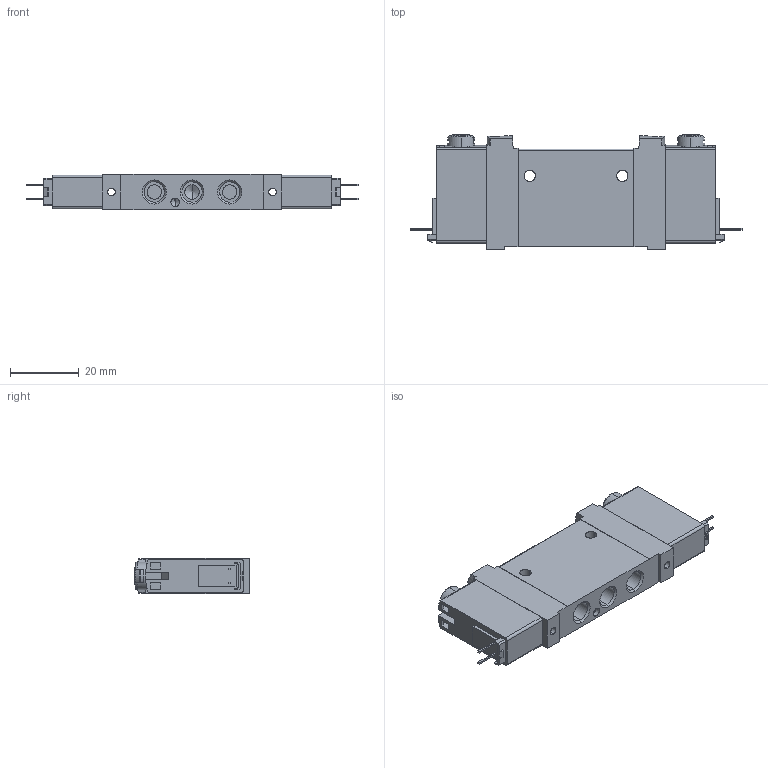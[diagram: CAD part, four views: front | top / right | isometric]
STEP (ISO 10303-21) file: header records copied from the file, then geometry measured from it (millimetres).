
FILE_DESCRIPTION (( 'STEP AP214' ), '1' );
FILE_NAME ('564212 VUVG-LK10-B52---T-M7--1H2--L-----(G).step', '2025-12-23T15:58:28', ( '' ), ( '' ), 'SwSTEP 2.0', 'SolidWorks 2026', '' );
FILE_SCHEMA (( 'AUTOMOTIVE_DESIGN' ));
Length unit declared in the file: millimetre
Products named in the file (1): 564212 VUVG-LK10-B52---T-M7--1H2--L-----(G)
Bounding box: 96.8 x 33.47 x 10.25 mm (x, y, z)
Volume: 22222.8 mm3; surface area: 9350.2 mm2
Topology: 1 solids, 1 shells, 367 faces, 962 edges, 628 vertices
Faces by surface type: plane 247, cylinder 80, cone 26, torus 10, sphere 4
Entity records: 12893 total; most frequent: CARTESIAN_POINT 3978, ORIENTED_EDGE 1916, DIRECTION 1692, EDGE_CURVE 958, VECTOR 640, LINE 640, VERTEX_POINT 628, AXIS2_PLACEMENT_3D 526
